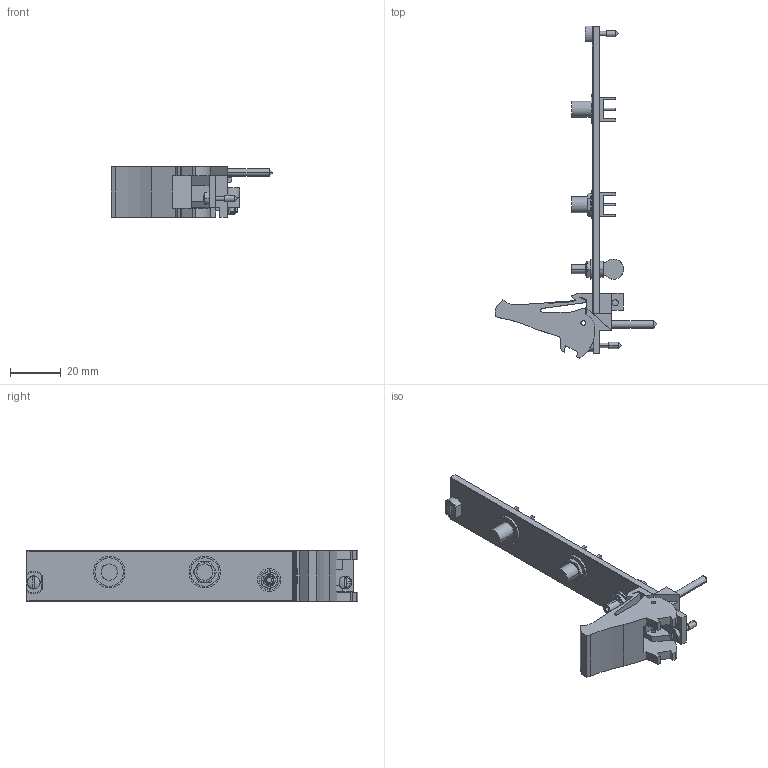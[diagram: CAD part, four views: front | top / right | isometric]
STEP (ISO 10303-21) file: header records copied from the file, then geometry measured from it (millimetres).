
FILE_DESCRIPTION((''),'2;1');
FILE_NAME('CU_PXI-5620','2009-11-11T',('jjorden'),(''),'PRO/ENGINEER BY PARAMETRIC TECHNOLOGY CORPORATION, 2006080','PRO/ENGINEER BY PARAMETRIC TECHNOLOGY CORPORATION, 2006080','');
FILE_SCHEMA(('CONFIG_CONTROL_DESIGN'));
Length unit declared in the file: inch
Products named in the file (1): CU_PXI-5620
Bounding box: 63.53 x 130.51 x 20.02 mm (x, y, z)
Volume: 15808 mm3; surface area: 13464.9 mm2
Topology: 4 solids, 4 shells, 418 faces, 1090 edges, 715 vertices
Faces by surface type: plane 283, cylinder 111, cone 16, sphere 6, torus 2
Entity records: 13331 total; most frequent: CARTESIAN_POINT 2780, DIRECTION 2179, ORIENTED_EDGE 2172, EDGE_CURVE 1086, VECTOR 759, LINE 759, VERTEX_POINT 715, AXIS2_PLACEMENT_3D 710
